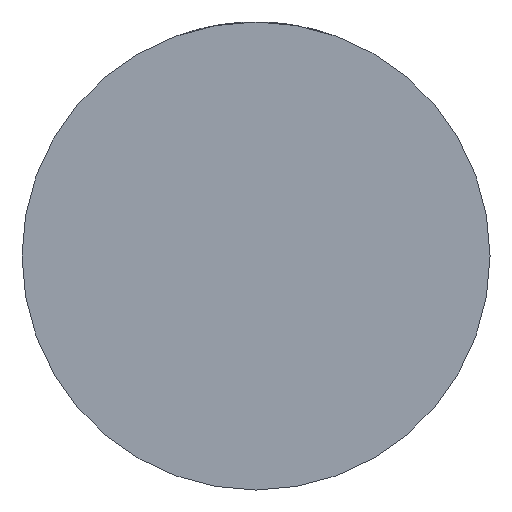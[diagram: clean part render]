
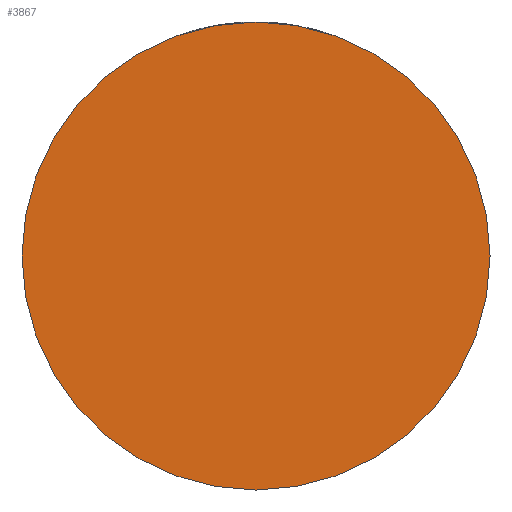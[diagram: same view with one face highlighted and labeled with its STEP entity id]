
A CAD part, front view. The second image highlights one B-rep face of the part: STEP entity #3867.
In plain terms, the highlighted planar face has unit normal (0, -1, 0).
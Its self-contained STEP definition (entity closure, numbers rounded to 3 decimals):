
#164 = FACE_OUTER_BOUND ( 'NONE', #1846, .T. ) ;
#326 = AXIS2_PLACEMENT_3D ( 'NONE', #1195, #4240, #1805 ) ;
#990 = DIRECTION ( 'NONE',  ( 0., -1., 0. ) ) ;
#1062 = EDGE_CURVE ( 'NONE', #2145, #2710, #1828, .T. ) ;
#1182 = ORIENTED_EDGE ( 'NONE', *, *, #1769, .T. ) ;
#1195 = CARTESIAN_POINT ( 'NONE',  ( 0., -26., 0. ) ) ;
#1213 = CARTESIAN_POINT ( 'NONE',  ( 32.5, -26., 0. ) ) ;
#1238 = CARTESIAN_POINT ( 'NONE',  ( 0., -26., 0. ) ) ;
#1579 = DIRECTION ( 'NONE',  ( 1., 0., 0. ) ) ;
#1717 = CARTESIAN_POINT ( 'NONE',  ( -32.5, -26., 0. ) ) ;
#1769 = EDGE_CURVE ( 'NONE', #2710, #2145, #4093, .T. ) ;
#1805 = DIRECTION ( 'NONE',  ( 1., 0., 0. ) ) ;
#1828 = CIRCLE ( 'NONE', #4383, 32.5 ) ;
#1836 = PLANE ( 'NONE',  #326 ) ;
#1846 = EDGE_LOOP ( 'NONE', ( #3563, #1182 ) ) ;
#2145 = VERTEX_POINT ( 'NONE', #1717 ) ;
#2710 = VERTEX_POINT ( 'NONE', #1213 ) ;
#3563 = ORIENTED_EDGE ( 'NONE', *, *, #1062, .T. ) ;
#3613 = DIRECTION ( 'NONE',  ( 0., -1., 0. ) ) ;
#3712 = DIRECTION ( 'NONE',  ( 1., 0., 0. ) ) ;
#3810 = AXIS2_PLACEMENT_3D ( 'NONE', #1238, #3613, #1579 ) ;
#3867 = ADVANCED_FACE ( 'NONE', ( #164 ), #1836, .T. ) ;
#4037 = CARTESIAN_POINT ( 'NONE',  ( 0., -26., 0. ) ) ;
#4093 = CIRCLE ( 'NONE', #3810, 32.5 ) ;
#4240 = DIRECTION ( 'NONE',  ( 0., -1., 0. ) ) ;
#4383 = AXIS2_PLACEMENT_3D ( 'NONE', #4037, #990, #3712 ) ;
